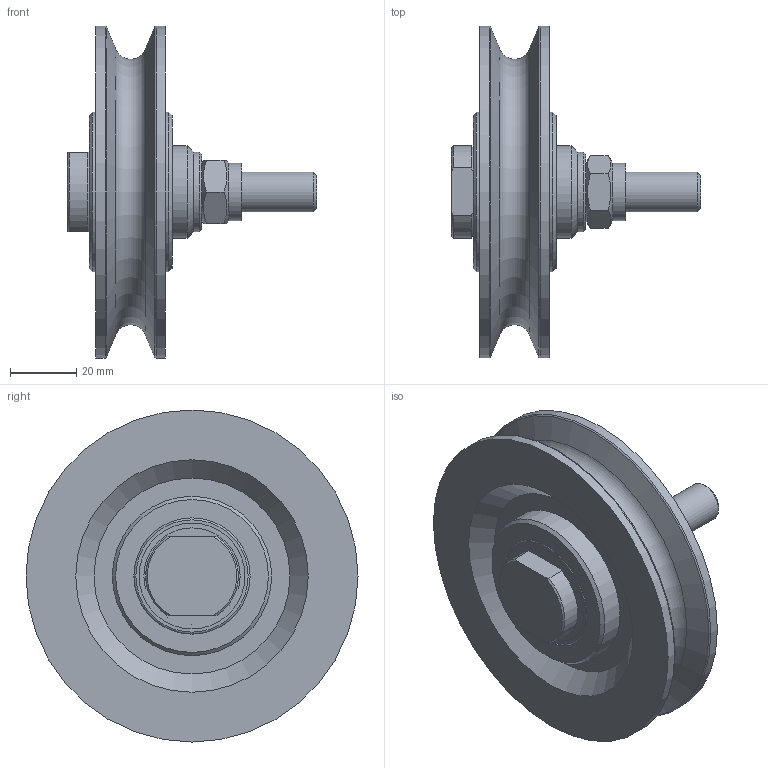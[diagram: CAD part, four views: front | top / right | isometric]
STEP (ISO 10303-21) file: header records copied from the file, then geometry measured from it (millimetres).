
FILE_DESCRIPTION(/* description */ ('Seilrolle ø100 feststehende Achse'),/* implementation_level */ '2;1');
FILE_NAME(/* name */ 'Z:\Workspace\03 Seilrollen\1.408 K Seilrollen feststehende Achse Kugellager\1.408.03 K Seilrolle ø100 feststehende Achse KL\1.408.03 K Seilrolle ø100 feststehende Achse.stp',/* time_stamp */ '2021-10-11T09:09:00+02:00',/* author */ ('cad-user'),/* organization */ (''),/* preprocessor_version */ 'ST-DEVELOPER v18',/* originating_system */ 'Autodesk Inventor 2020',/* authorisation */ '');
FILE_SCHEMA (('AUTOMOTIVE_DESIGN { 1 0 10303 214 3 1 1 }'));
Length unit declared in the file: millimetre
Products named in the file (13): 1.408.03 K Seilrolle ø100 feststehende Achse; 1.402.03 Seilrolle ø100 Kugellager komplett; 1.402.03 Seilrolle ø100 Kugellager; DIN625 - 6202-2RS; din625_-_6202-2rs_0_05; din625_-_6202-2rs_0_04; din625_-_6202-2rs_0_03; din625_-_6202-2rs_0_02; din625_-_6202-2rs_0_01; 1.408.03.02 K Scheibe; 1.408.03.01 K Schraube; DIN 985 - M12; DIN 125-1 - B 13
Assembly tree (13 placements, depth 4):
  1.408.03 K Seilrolle ø100 feststehende Achse
    1.402.03 Seilrolle ø100 Kugellager komplett
      1.402.03 Seilrolle ø100 Kugellager
      DIN625 - 6202-2RS  x2
        din625_-_6202-2rs_0_05
        din625_-_6202-2rs_0_04
        din625_-_6202-2rs_0_03
        din625_-_6202-2rs_0_02
        din625_-_6202-2rs_0_01
    1.408.03.02 K Scheibe
    1.408.03.01 K Schraube
    DIN 985 - M12
    DIN 125-1 - B 13
Bounding box: 75 x 100 x 100 mm (x, y, z)
Volume: 134274.3 mm3; surface area: 52694.2 mm2
Topology: 15 solids, 15 shells, 155 faces, 408 edges, 295 vertices
Faces by surface type: plane 50, cylinder 45, torus 29, cone 17, sphere 14
Full cylindrical faces by diameter (mm): 2.459 x1, 12 x1, 13 x1, 15 x3, 16 x1, 17.4 x1, 19.1 x8, 21 x4, 24 x1, 28 x1, 29 x4, 31.9 x8, 32 x1, 35 x4, 48 x2, 100 x2
Entity records: 4338 total; most frequent: CARTESIAN_POINT 1114, DIRECTION 646, ORIENTED_EDGE 528, AXIS2_PLACEMENT_3D 295, EDGE_CURVE 264, VERTEX_POINT 199, CIRCLE 160, EDGE_LOOP 151
